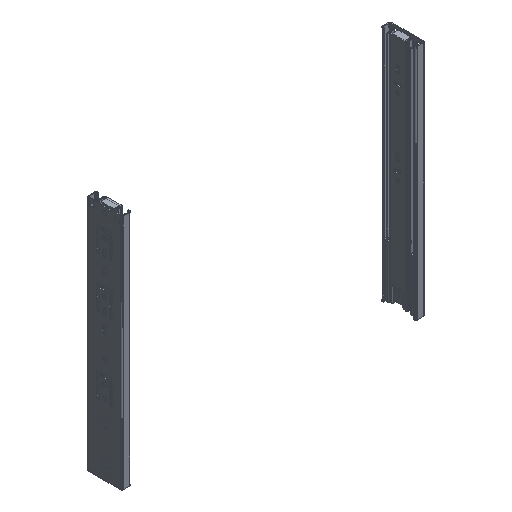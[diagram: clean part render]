
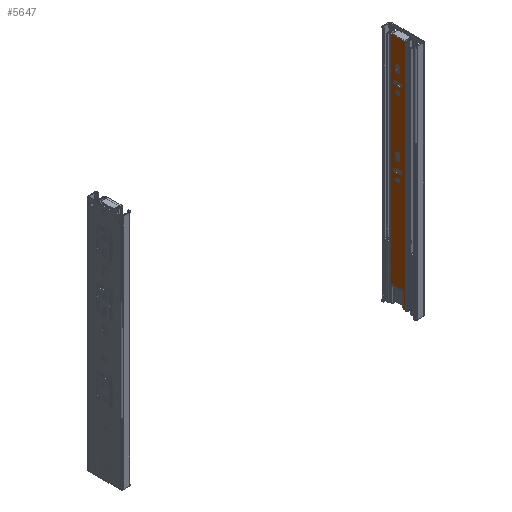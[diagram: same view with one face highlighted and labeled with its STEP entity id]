
A CAD part, isometric view. The second image highlights one B-rep face of the part: STEP entity #5647.
In plain terms, the highlighted planar face has unit normal (-1, 0, 0) as drawn and (1, 0, 0) by its records, which use the part's own axes.
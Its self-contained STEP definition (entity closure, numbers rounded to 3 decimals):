
#129=FACE_BOUND('',#814,.T.);
#130=FACE_BOUND('',#815,.T.);
#131=FACE_BOUND('',#816,.T.);
#132=FACE_BOUND('',#817,.T.);
#133=FACE_BOUND('',#818,.T.);
#134=FACE_BOUND('',#819,.T.);
#245=PLANE('',#6251);
#486=FACE_OUTER_BOUND('',#813,.T.);
#813=EDGE_LOOP('',(#4601,#4602,#4603,#4604,#4605,#4606,#4607,#4608,#4609,
#4610));
#814=EDGE_LOOP('',(#4611,#4612,#4613,#4614));
#815=EDGE_LOOP('',(#4615));
#816=EDGE_LOOP('',(#4616,#4617,#4618,#4619));
#817=EDGE_LOOP('',(#4620,#4621,#4622,#4623));
#818=EDGE_LOOP('',(#4624));
#819=EDGE_LOOP('',(#4625,#4626,#4627,#4628));
#1215=LINE('',#8952,#1733);
#1219=LINE('',#8962,#1737);
#1224=LINE('',#8982,#1742);
#1228=LINE('',#8992,#1746);
#1253=LINE('',#9074,#1771);
#1280=LINE('',#9318,#1798);
#1281=LINE('',#9329,#1799);
#1283=LINE('',#9341,#1801);
#1293=LINE('',#9363,#1811);
#1294=LINE('',#9365,#1812);
#1295=LINE('',#9367,#1813);
#1296=LINE('',#9368,#1814);
#1297=LINE('',#9373,#1815);
#1298=LINE('',#9376,#1816);
#1299=LINE('',#9383,#1817);
#1300=LINE('',#9386,#1818);
#1733=VECTOR('',#7280,10.);
#1737=VECTOR('',#7292,10.);
#1742=VECTOR('',#7311,10.);
#1746=VECTOR('',#7323,10.);
#1771=VECTOR('',#7402,10.);
#1798=VECTOR('',#7499,10.);
#1799=VECTOR('',#7512,10.);
#1801=VECTOR('',#7526,10.);
#1811=VECTOR('',#7552,10.);
#1812=VECTOR('',#7553,10.);
#1813=VECTOR('',#7554,10.);
#1814=VECTOR('',#7555,10.);
#1815=VECTOR('',#7558,10.);
#1816=VECTOR('',#7561,10.);
#1817=VECTOR('',#7566,10.);
#1818=VECTOR('',#7569,10.);
#2089=CIRCLE('',#6153,2.25);
#2091=CIRCLE('',#6157,2.25);
#2092=CIRCLE('',#6160,2.25);
#2095=CIRCLE('',#6164,2.25);
#2097=CIRCLE('',#6168,2.25);
#2139=CIRCLE('',#6234,2.);
#2143=CIRCLE('',#6240,2.);
#2147=CIRCLE('',#6252,2.25);
#2148=CIRCLE('',#6253,2.25);
#2149=CIRCLE('',#6254,2.25);
#2150=CIRCLE('',#6255,2.25);
#2151=CIRCLE('',#6256,2.25);
#2499=VERTEX_POINT('',#8943);
#2500=VERTEX_POINT('',#8945);
#2502=VERTEX_POINT('',#8951);
#2504=VERTEX_POINT('',#8957);
#2505=VERTEX_POINT('',#8964);
#2509=VERTEX_POINT('',#8973);
#2510=VERTEX_POINT('',#8975);
#2512=VERTEX_POINT('',#8981);
#2514=VERTEX_POINT('',#8987);
#2543=VERTEX_POINT('',#9071);
#2544=VERTEX_POINT('',#9073);
#2585=VERTEX_POINT('',#9316);
#2587=VERTEX_POINT('',#9321);
#2589=VERTEX_POINT('',#9327);
#2591=VERTEX_POINT('',#9333);
#2593=VERTEX_POINT('',#9339);
#2597=VERTEX_POINT('',#9362);
#2598=VERTEX_POINT('',#9364);
#2599=VERTEX_POINT('',#9366);
#2600=VERTEX_POINT('',#9369);
#2601=VERTEX_POINT('',#9370);
#2602=VERTEX_POINT('',#9372);
#2603=VERTEX_POINT('',#9374);
#2604=VERTEX_POINT('',#9377);
#2605=VERTEX_POINT('',#9379);
#2606=VERTEX_POINT('',#9380);
#2607=VERTEX_POINT('',#9382);
#2608=VERTEX_POINT('',#9384);
#3157=EDGE_CURVE('',#2500,#2499,#2089,.T.);
#3160=EDGE_CURVE('',#2502,#2500,#1215,.T.);
#3163=EDGE_CURVE('',#2504,#2502,#2091,.T.);
#3166=EDGE_CURVE('',#2499,#2504,#1219,.T.);
#3167=EDGE_CURVE('',#2505,#2505,#2092,.T.);
#3172=EDGE_CURVE('',#2510,#2509,#2095,.T.);
#3175=EDGE_CURVE('',#2512,#2510,#1224,.T.);
#3178=EDGE_CURVE('',#2514,#2512,#2097,.T.);
#3181=EDGE_CURVE('',#2509,#2514,#1228,.T.);
#3221=EDGE_CURVE('',#2543,#2544,#1253,.T.);
#3277=EDGE_CURVE('',#2585,#2543,#1280,.T.);
#3279=EDGE_CURVE('',#2587,#2585,#2139,.T.);
#3282=EDGE_CURVE('',#2589,#2587,#1281,.T.);
#3285=EDGE_CURVE('',#2591,#2589,#2143,.T.);
#3288=EDGE_CURVE('',#2593,#2591,#1283,.T.);
#3299=EDGE_CURVE('',#2597,#2593,#1293,.T.);
#3300=EDGE_CURVE('',#2597,#2598,#1294,.T.);
#3301=EDGE_CURVE('',#2599,#2598,#1295,.T.);
#3302=EDGE_CURVE('',#2599,#2544,#1296,.T.);
#3303=EDGE_CURVE('',#2600,#2601,#2147,.T.);
#3304=EDGE_CURVE('',#2601,#2602,#1297,.T.);
#3305=EDGE_CURVE('',#2602,#2603,#2148,.T.);
#3306=EDGE_CURVE('',#2603,#2600,#1298,.T.);
#3307=EDGE_CURVE('',#2604,#2604,#2149,.T.);
#3308=EDGE_CURVE('',#2605,#2606,#2150,.T.);
#3309=EDGE_CURVE('',#2606,#2607,#1299,.T.);
#3310=EDGE_CURVE('',#2607,#2608,#2151,.T.);
#3311=EDGE_CURVE('',#2608,#2605,#1300,.T.);
#4601=ORIENTED_EDGE('',*,*,#3288,.F.);
#4602=ORIENTED_EDGE('',*,*,#3299,.F.);
#4603=ORIENTED_EDGE('',*,*,#3300,.T.);
#4604=ORIENTED_EDGE('',*,*,#3301,.F.);
#4605=ORIENTED_EDGE('',*,*,#3302,.T.);
#4606=ORIENTED_EDGE('',*,*,#3221,.F.);
#4607=ORIENTED_EDGE('',*,*,#3277,.F.);
#4608=ORIENTED_EDGE('',*,*,#3279,.F.);
#4609=ORIENTED_EDGE('',*,*,#3282,.F.);
#4610=ORIENTED_EDGE('',*,*,#3285,.F.);
#4611=ORIENTED_EDGE('',*,*,#3163,.T.);
#4612=ORIENTED_EDGE('',*,*,#3160,.T.);
#4613=ORIENTED_EDGE('',*,*,#3157,.T.);
#4614=ORIENTED_EDGE('',*,*,#3166,.T.);
#4615=ORIENTED_EDGE('',*,*,#3167,.T.);
#4616=ORIENTED_EDGE('',*,*,#3178,.T.);
#4617=ORIENTED_EDGE('',*,*,#3175,.T.);
#4618=ORIENTED_EDGE('',*,*,#3172,.T.);
#4619=ORIENTED_EDGE('',*,*,#3181,.T.);
#4620=ORIENTED_EDGE('',*,*,#3303,.T.);
#4621=ORIENTED_EDGE('',*,*,#3304,.T.);
#4622=ORIENTED_EDGE('',*,*,#3305,.T.);
#4623=ORIENTED_EDGE('',*,*,#3306,.T.);
#4624=ORIENTED_EDGE('',*,*,#3307,.T.);
#4625=ORIENTED_EDGE('',*,*,#3308,.T.);
#4626=ORIENTED_EDGE('',*,*,#3309,.T.);
#4627=ORIENTED_EDGE('',*,*,#3310,.T.);
#4628=ORIENTED_EDGE('',*,*,#3311,.T.);
#5647=ADVANCED_FACE('',(#486,#129,#130,#131,#132,#133,#134),#245,.T.);
#6153=AXIS2_PLACEMENT_3D('',#8946,#7274,#7275);
#6157=AXIS2_PLACEMENT_3D('',#8958,#7286,#7287);
#6160=AXIS2_PLACEMENT_3D('',#8965,#7295,#7296);
#6164=AXIS2_PLACEMENT_3D('',#8976,#7305,#7306);
#6168=AXIS2_PLACEMENT_3D('',#8988,#7317,#7318);
#6234=AXIS2_PLACEMENT_3D('',#9323,#7504,#7505);
#6240=AXIS2_PLACEMENT_3D('',#9335,#7518,#7519);
#6251=AXIS2_PLACEMENT_3D('',#9361,#7550,#7551);
#6252=AXIS2_PLACEMENT_3D('',#9371,#7556,#7557);
#6253=AXIS2_PLACEMENT_3D('',#9375,#7559,#7560);
#6254=AXIS2_PLACEMENT_3D('',#9378,#7562,#7563);
#6255=AXIS2_PLACEMENT_3D('',#9381,#7564,#7565);
#6256=AXIS2_PLACEMENT_3D('',#9385,#7567,#7568);
#7274=DIRECTION('center_axis',(-1.,0.,0.));
#7275=DIRECTION('ref_axis',(0.,1.,0.));
#7280=DIRECTION('',(0.,0.,1.));
#7286=DIRECTION('center_axis',(-1.,0.,0.));
#7287=DIRECTION('ref_axis',(0.,-1.,0.));
#7292=DIRECTION('',(0.,0.,-1.));
#7295=DIRECTION('center_axis',(-1.,0.,0.));
#7296=DIRECTION('ref_axis',(0.,0.,1.));
#7305=DIRECTION('center_axis',(-1.,0.,0.));
#7306=DIRECTION('ref_axis',(0.,0.,-1.));
#7311=DIRECTION('',(0.,1.,0.));
#7317=DIRECTION('center_axis',(-1.,0.,0.));
#7318=DIRECTION('ref_axis',(0.,0.,1.));
#7323=DIRECTION('',(0.,-1.,0.));
#7402=DIRECTION('',(0.,-1.,0.));
#7499=DIRECTION('',(0.,0.,-1.));
#7504=DIRECTION('center_axis',(1.,0.,0.));
#7505=DIRECTION('ref_axis',(0.,-0.707,0.707));
#7512=DIRECTION('',(0.,-1.,0.));
#7518=DIRECTION('center_axis',(1.,0.,0.));
#7519=DIRECTION('ref_axis',(0.,0.707,0.707));
#7526=DIRECTION('',(0.,0.,1.));
#7550=DIRECTION('center_axis',(1.,0.,0.));
#7551=DIRECTION('ref_axis',(0.,-1.,0.));
#7552=DIRECTION('',(0.,-1.,0.));
#7553=DIRECTION('',(0.,0.,1.));
#7554=DIRECTION('',(0.,1.,0.));
#7555=DIRECTION('',(0.,0.,-1.));
#7556=DIRECTION('center_axis',(-1.,0.,0.));
#7557=DIRECTION('ref_axis',(0.,-1.,0.));
#7558=DIRECTION('',(0.,0.,1.));
#7559=DIRECTION('center_axis',(-1.,0.,0.));
#7560=DIRECTION('ref_axis',(0.,1.,0.));
#7561=DIRECTION('',(0.,0.,-1.));
#7562=DIRECTION('center_axis',(-1.,0.,0.));
#7563=DIRECTION('ref_axis',(0.,0.,1.));
#7564=DIRECTION('center_axis',(-1.,0.,0.));
#7565=DIRECTION('ref_axis',(0.,0.,1.));
#7566=DIRECTION('',(0.,1.,0.));
#7567=DIRECTION('center_axis',(-1.,0.,0.));
#7568=DIRECTION('ref_axis',(0.,0.,-1.));
#7569=DIRECTION('',(0.,-1.,0.));
#8943=CARTESIAN_POINT('',(7.,2.25,-128.5));
#8945=CARTESIAN_POINT('',(7.,-2.25,-128.5));
#8946=CARTESIAN_POINT('Origin',(7.,0.,-128.5));
#8951=CARTESIAN_POINT('',(7.,-2.25,-133.5));
#8952=CARTESIAN_POINT('',(7.,-2.25,-66.75));
#8957=CARTESIAN_POINT('',(7.,2.25,-133.5));
#8958=CARTESIAN_POINT('Origin',(7.,0.,-133.5));
#8962=CARTESIAN_POINT('',(7.,2.25,-64.25));
#8964=CARTESIAN_POINT('',(7.,0.,-159.25));
#8965=CARTESIAN_POINT('Origin',(7.,0.,-157.));
#8973=CARTESIAN_POINT('',(7.,2.5,-149.25));
#8975=CARTESIAN_POINT('',(7.,2.5,-144.75));
#8976=CARTESIAN_POINT('Origin',(7.,2.5,-147.));
#8981=CARTESIAN_POINT('',(7.,-2.5,-144.75));
#8982=CARTESIAN_POINT('',(7.,4.625,-144.75));
#8987=CARTESIAN_POINT('',(7.,-2.5,-149.25));
#8988=CARTESIAN_POINT('Origin',(7.,-2.5,-147.));
#8992=CARTESIAN_POINT('',(7.,7.125,-149.25));
#9071=CARTESIAN_POINT('',(7.,-7.5,-295.));
#9073=CARTESIAN_POINT('',(7.,-9.75,-295.));
#9074=CARTESIAN_POINT('',(7.,-11.75,-295.));
#9316=CARTESIAN_POINT('',(7.,-7.5,-277.));
#9318=CARTESIAN_POINT('',(7.,-7.5,-147.5));
#9321=CARTESIAN_POINT('',(7.,-5.5,-275.));
#9323=CARTESIAN_POINT('Origin',(7.,-5.5,-277.));
#9327=CARTESIAN_POINT('',(7.,5.5,-275.));
#9329=CARTESIAN_POINT('',(7.,3.125,-275.));
#9333=CARTESIAN_POINT('',(7.,7.5,-277.));
#9335=CARTESIAN_POINT('Origin',(7.,5.5,-277.));
#9339=CARTESIAN_POINT('',(7.,7.5,-295.));
#9341=CARTESIAN_POINT('',(7.,7.5,-138.5));
#9361=CARTESIAN_POINT('Origin',(7.,11.75,0.));
#9362=CARTESIAN_POINT('',(7.,9.75,-295.));
#9363=CARTESIAN_POINT('',(7.,-11.75,-295.));
#9364=CARTESIAN_POINT('',(7.,9.75,0.));
#9365=CARTESIAN_POINT('',(7.,9.75,0.));
#9366=CARTESIAN_POINT('',(7.,-9.75,0.));
#9367=CARTESIAN_POINT('',(7.,-11.75,0.));
#9368=CARTESIAN_POINT('',(7.,-9.75,0.));
#9369=CARTESIAN_POINT('',(7.,2.25,-37.5));
#9370=CARTESIAN_POINT('',(7.,-2.25,-37.5));
#9371=CARTESIAN_POINT('Origin',(7.,0.,-37.5));
#9372=CARTESIAN_POINT('',(7.,-2.25,-32.5));
#9373=CARTESIAN_POINT('',(7.,-2.25,-18.75));
#9374=CARTESIAN_POINT('',(7.,2.25,-32.5));
#9375=CARTESIAN_POINT('Origin',(7.,0.,-32.5));
#9376=CARTESIAN_POINT('',(7.,2.25,-16.25));
#9377=CARTESIAN_POINT('',(7.,0.,-63.25));
#9378=CARTESIAN_POINT('Origin',(7.,0.,-61.));
#9379=CARTESIAN_POINT('',(7.,-2.5,-53.25));
#9380=CARTESIAN_POINT('',(7.,-2.5,-48.75));
#9381=CARTESIAN_POINT('Origin',(7.,-2.5,-51.));
#9382=CARTESIAN_POINT('',(7.,2.5,-48.75));
#9383=CARTESIAN_POINT('',(7.,4.625,-48.75));
#9384=CARTESIAN_POINT('',(7.,2.5,-53.25));
#9385=CARTESIAN_POINT('Origin',(7.,2.5,-51.));
#9386=CARTESIAN_POINT('',(7.,7.125,-53.25));
